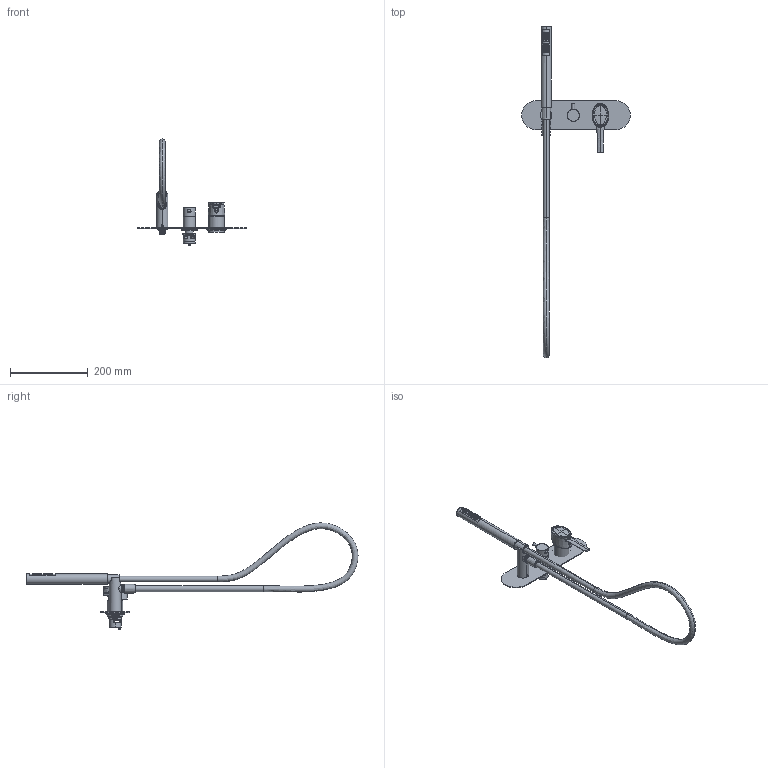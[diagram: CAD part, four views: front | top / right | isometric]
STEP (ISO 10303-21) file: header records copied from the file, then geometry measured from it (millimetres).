
FILE_DESCRIPTION((''),'2;1');
FILE_NAME('58519V2_SW0001','2023-06-05T08:21:49',('volponeff'),(''),'CREO PARAMETRIC BY PTC INC, 2022014','CREO PARAMETRIC BY PTC INC, 2022014','');
FILE_SCHEMA(('CONFIG_CONTROL_DESIGN'));
Length unit declared in the file: millimetre
Products named in the file (1): 58519V2_SW0001
Bounding box: 280 x 856.75 x 273.84 mm (x, y, z)
Surface area: 182455.3 mm2 (no closed solid volume)
Topology: 0 solids, 73 shells, 382 faces, 1047 edges, 716 vertices
Faces by surface type: cylinder 185, bspline 94, plane 44, cone 34, torus 21, sphere 4
Entity records: 26908 total; most frequent: CARTESIAN_POINT 18436, ORIENTED_EDGE 1741, DIRECTION 1499, EDGE_CURVE 1043, VERTEX_POINT 716, AXIS2_PLACEMENT_3D 608, B_SPLINE_CURVE_WITH_KNOTS 440, EDGE_LOOP 382
